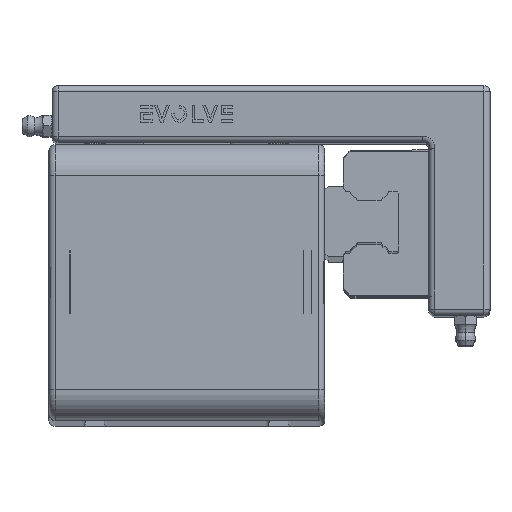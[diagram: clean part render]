
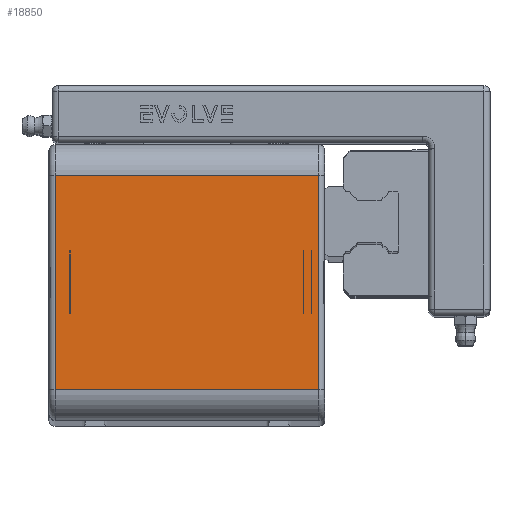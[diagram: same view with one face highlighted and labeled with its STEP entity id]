
A CAD part, top view. The second image highlights one B-rep face of the part: STEP entity #18850.
In plain terms, the highlighted planar face has unit normal (0, 0, 1).
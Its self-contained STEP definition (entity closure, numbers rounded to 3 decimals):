
#1219=PLANE('',#20591);
#2125=FACE_OUTER_BOUND('',#3289,.T.);
#3289=EDGE_LOOP('',(#14726,#14727,#14728,#14729));
#4583=LINE('',#30001,#6233);
#4593=LINE('',#30052,#6243);
#4638=LINE('',#30254,#6288);
#4639=LINE('',#30256,#6289);
#6233=VECTOR('',#23530,10.);
#6243=VECTOR('',#23584,10.);
#6288=VECTOR('',#23823,10.);
#6289=VECTOR('',#23826,10.);
#8883=VERTEX_POINT('',#29993);
#8885=VERTEX_POINT('',#29999);
#8902=VERTEX_POINT('',#30044);
#8904=VERTEX_POINT('',#30050);
#10940=EDGE_CURVE('',#8885,#8883,#4583,.T.);
#10965=EDGE_CURVE('',#8904,#8902,#4593,.T.);
#11062=EDGE_CURVE('',#8883,#8904,#4638,.T.);
#11063=EDGE_CURVE('',#8902,#8885,#4639,.T.);
#14726=ORIENTED_EDGE('',*,*,#10940,.F.);
#14727=ORIENTED_EDGE('',*,*,#11063,.F.);
#14728=ORIENTED_EDGE('',*,*,#10965,.F.);
#14729=ORIENTED_EDGE('',*,*,#11062,.F.);
#18850=ADVANCED_FACE('',(#2125),#1219,.T.);
#20591=AXIS2_PLACEMENT_3D('',#30255,#23824,#23825);
#23530=DIRECTION('',(0.,-1.,0.));
#23584=DIRECTION('',(0.,1.,0.));
#23823=DIRECTION('',(-1.,0.,0.));
#23824=DIRECTION('center_axis',(0.,0.,1.));
#23825=DIRECTION('ref_axis',(1.,0.,0.));
#23826=DIRECTION('',(1.,0.,0.));
#29993=CARTESIAN_POINT('',(43.,-35.,95.));
#29999=CARTESIAN_POINT('',(43.,35.,95.));
#30001=CARTESIAN_POINT('',(43.,-22.5,95.));
#30044=CARTESIAN_POINT('',(-43.,35.,95.));
#30050=CARTESIAN_POINT('',(-43.,-35.,95.));
#30052=CARTESIAN_POINT('',(-43.,22.5,95.));
#30254=CARTESIAN_POINT('',(-22.5,-35.,95.));
#30255=CARTESIAN_POINT('Origin',(0.,0.,
95.));
#30256=CARTESIAN_POINT('',(22.5,35.,95.));
